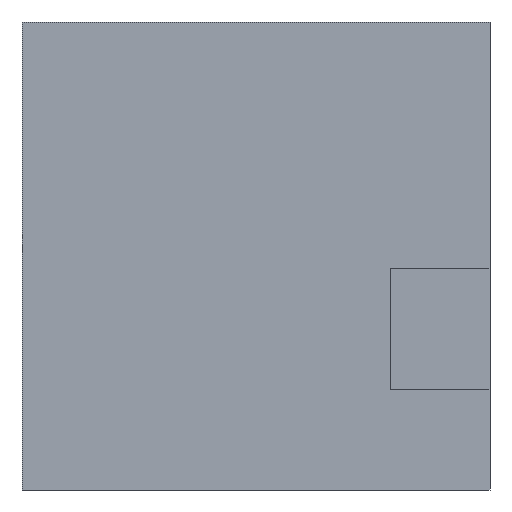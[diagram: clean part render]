
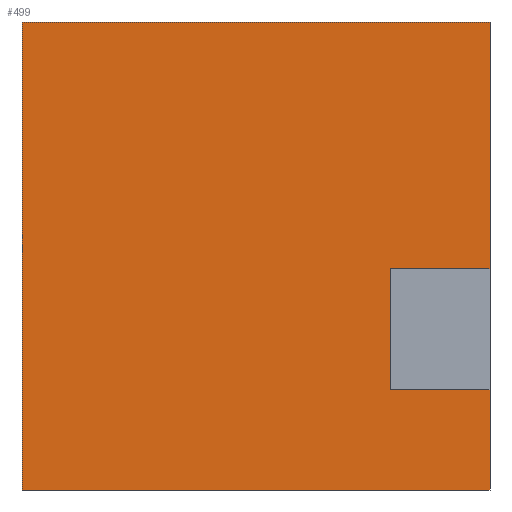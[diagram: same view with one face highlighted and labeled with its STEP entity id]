
A CAD part, left-side view. The second image highlights one B-rep face of the part: STEP entity #499.
In plain terms, the highlighted planar face has unit normal (-1, 0, 0).
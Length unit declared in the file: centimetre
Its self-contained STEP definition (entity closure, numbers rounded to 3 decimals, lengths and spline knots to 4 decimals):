
#8 = VECTOR ( 'NONE', #944, 100. ) ;
#11 = DIRECTION ( 'NONE',  ( 0., 0., -1. ) ) ;
#59 = CARTESIAN_POINT ( 'NONE',  ( 0., 0., 214.602 ) ) ;
#64 = EDGE_CURVE ( 'NONE', #677, #672, #546, .T. ) ;
#65 = LINE ( 'NONE', #850, #840 ) ;
#105 = EDGE_CURVE ( 'NONE', #438, #839, #627, .T. ) ;
#125 = LINE ( 'NONE', #379, #694 ) ;
#128 = CARTESIAN_POINT ( 'NONE',  ( 0., 1000., 0. ) ) ;
#139 = LINE ( 'NONE', #783, #173 ) ;
#147 = CARTESIAN_POINT ( 'NONE',  ( 0., 0., 472.9586 ) ) ;
#168 = EDGE_CURVE ( 'NONE', #185, #672, #125, .T. ) ;
#171 = LINE ( 'NONE', #487, #269 ) ;
#173 = VECTOR ( 'NONE', #532, 100. ) ;
#180 = ORIENTED_EDGE ( 'NONE', *, *, #778, .F. ) ;
#185 = VERTEX_POINT ( 'NONE', #128 ) ;
#233 = VERTEX_POINT ( 'NONE', #386 ) ;
#269 = VECTOR ( 'NONE', #11, 100. ) ;
#334 = VECTOR ( 'NONE', #432, 100. ) ;
#346 = VERTEX_POINT ( 'NONE', #479 ) ;
#379 = CARTESIAN_POINT ( 'NONE',  ( 0., 1000., 0. ) ) ;
#384 = CARTESIAN_POINT ( 'NONE',  ( 0., 213.379, 214.602 ) ) ;
#386 = CARTESIAN_POINT ( 'NONE',  ( 0., 213.379, 214.602 ) ) ;
#390 = DIRECTION ( 'NONE',  ( 0., 1., 0. ) ) ;
#414 = DIRECTION ( 'NONE',  ( 0., 0., -1. ) ) ;
#432 = DIRECTION ( 'NONE',  ( 0., -1., 0. ) ) ;
#438 = VERTEX_POINT ( 'NONE', #902 ) ;
#446 = VERTEX_POINT ( 'NONE', #660 ) ;
#479 = CARTESIAN_POINT ( 'NONE',  ( 0., 1000., 1000. ) ) ;
#487 = CARTESIAN_POINT ( 'NONE',  ( 0., 1000., 1000. ) ) ;
#499 = ADVANCED_FACE ( 'NONE', ( #984 ), #675, .F. ) ;
#502 = ORIENTED_EDGE ( 'NONE', *, *, #617, .F. ) ;
#512 = ORIENTED_EDGE ( 'NONE', *, *, #973, .F. ) ;
#532 = DIRECTION ( 'NONE',  ( 0., 0., -1. ) ) ;
#537 = AXIS2_PLACEMENT_3D ( 'NONE', #911, #577, #992 ) ;
#546 = LINE ( 'NONE', #889, #749 ) ;
#547 = CARTESIAN_POINT ( 'NONE',  ( 0., 213.379, 472.9586 ) ) ;
#562 = LINE ( 'NONE', #384, #8 ) ;
#573 = CARTESIAN_POINT ( 'NONE',  ( 0., 0., 214.602 ) ) ;
#577 = DIRECTION ( 'NONE',  ( 1., 0., 0. ) ) ;
#591 = EDGE_CURVE ( 'NONE', #446, #438, #139, .T. ) ;
#599 = ORIENTED_EDGE ( 'NONE', *, *, #105, .F. ) ;
#617 = EDGE_CURVE ( 'NONE', #346, #446, #65, .T. ) ;
#625 = DIRECTION ( 'NONE',  ( 0., -1., 0. ) ) ;
#627 = LINE ( 'NONE', #147, #959 ) ;
#660 = CARTESIAN_POINT ( 'NONE',  ( 0., 0., 1000. ) ) ;
#664 = ORIENTED_EDGE ( 'NONE', *, *, #64, .F. ) ;
#672 = VERTEX_POINT ( 'NONE', #779 ) ;
#675 = PLANE ( 'NONE',  #537 ) ;
#677 = VERTEX_POINT ( 'NONE', #59 ) ;
#694 = VECTOR ( 'NONE', #625, 100. ) ;
#716 = EDGE_LOOP ( 'NONE', ( #664, #512, #180, #599, #848, #502, #928, #1004 ) ) ;
#749 = VECTOR ( 'NONE', #414, 100. ) ;
#778 = EDGE_CURVE ( 'NONE', #839, #233, #562, .T. ) ;
#779 = CARTESIAN_POINT ( 'NONE',  ( 0., 0., 0. ) ) ;
#783 = CARTESIAN_POINT ( 'NONE',  ( 0., 0., 1000. ) ) ;
#832 = EDGE_CURVE ( 'NONE', #346, #185, #171, .T. ) ;
#839 = VERTEX_POINT ( 'NONE', #547 ) ;
#840 = VECTOR ( 'NONE', #1005, 100. ) ;
#848 = ORIENTED_EDGE ( 'NONE', *, *, #591, .F. ) ;
#850 = CARTESIAN_POINT ( 'NONE',  ( 0., 1000., 1000. ) ) ;
#889 = CARTESIAN_POINT ( 'NONE',  ( 0., 0., 1000. ) ) ;
#902 = CARTESIAN_POINT ( 'NONE',  ( 0., 0., 472.9586 ) ) ;
#911 = CARTESIAN_POINT ( 'NONE',  ( 0., 1000., 1000. ) ) ;
#928 = ORIENTED_EDGE ( 'NONE', *, *, #832, .T. ) ;
#944 = DIRECTION ( 'NONE',  ( 0., 0., -1. ) ) ;
#959 = VECTOR ( 'NONE', #390, 100. ) ;
#973 = EDGE_CURVE ( 'NONE', #233, #677, #977, .T. ) ;
#977 = LINE ( 'NONE', #573, #334 ) ;
#984 = FACE_OUTER_BOUND ( 'NONE', #716, .T. ) ;
#992 = DIRECTION ( 'NONE',  ( 0., 0., -1. ) ) ;
#1004 = ORIENTED_EDGE ( 'NONE', *, *, #168, .T. ) ;
#1005 = DIRECTION ( 'NONE',  ( 0., -1., 0. ) ) ;
